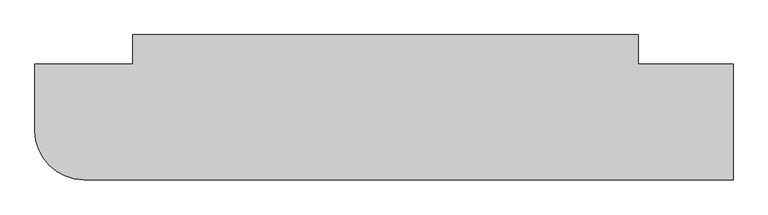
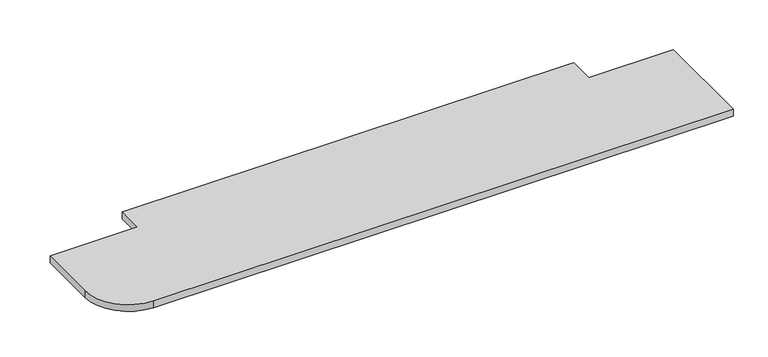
"""IFC4 building model written with IfcOpenShell, lengths in millimetres: furniture geometry, キッチンカウンター : キッチンカウンター."""

from ifc_helpers import new_model, si_unit, point, frame, frame_2d, origin, place, context, project, spatial, polyline, circle_curve, trimmed, segment, composite_curve, outline, extrude, source, transform, mapped, element, save


def furniture_a4760ea0(model_context):
    return source(origin(), model_context, "Body", "SweptSolid", [
        extrude(outline(composite_curve([segment(polyline([(-1840.0, 0.0), (-290.0, 0.0), (-290.0, -90.0), (0.0, -90.0), (0.0, -445.0), (-1990.0, -445.0)]), True, "CONTINUOUS"), segment(trimmed(circle_curve(frame_2d((-1990.0, -295.0)), 150.0), [point((-1990.0, -445.0))], [point((-2140.0, -295.0))], False, "CARTESIAN"), True, "CONTINUOUS"), segment(polyline([(-2140.0, -295.0), (-2140.0, -90.0), (-1840.0, -90.0), (-1840.0, 0.0)]), True, "CONTINUOUS")], self_intersect=False)), frame((0.0, 0.0, 975.0), z_axis=(0.0, 0.0, 1.0), x_axis=(1.0, 0.0, 0.0)), (0.0, 0.0, 1.0), 25.0),
    ])


if __name__ == "__main__":
    model = new_model("IFC4")
    model_context = context("Model", 3, world=origin())
    ifc_project = project(units=[si_unit("LENGTHUNIT", "METRE", prefix="MILLI")], contexts=[model_context])
    site = spatial("IfcSite", under=ifc_project)
    building = spatial("IfcBuilding", under=site)
    placement = place(None, origin())
    furniture_shape = furniture_a4760ea0(model_context)
    element("IfcFurniture", 1, ObjectType="キッチンカウンター : キッチンカウンター", at=placement, inside=building, context=model_context, shape_type="MappedRepresentation", body=[
        mapped(furniture_shape, transform((0.0, 0.0, 0.0), x_axis=(1.0, 0.0, 0.0), y_axis=(0.0, 1.0, 0.0), z_axis=(0.0, 0.0, 1.0))),
    ])
    save(model, "model.ifc")
